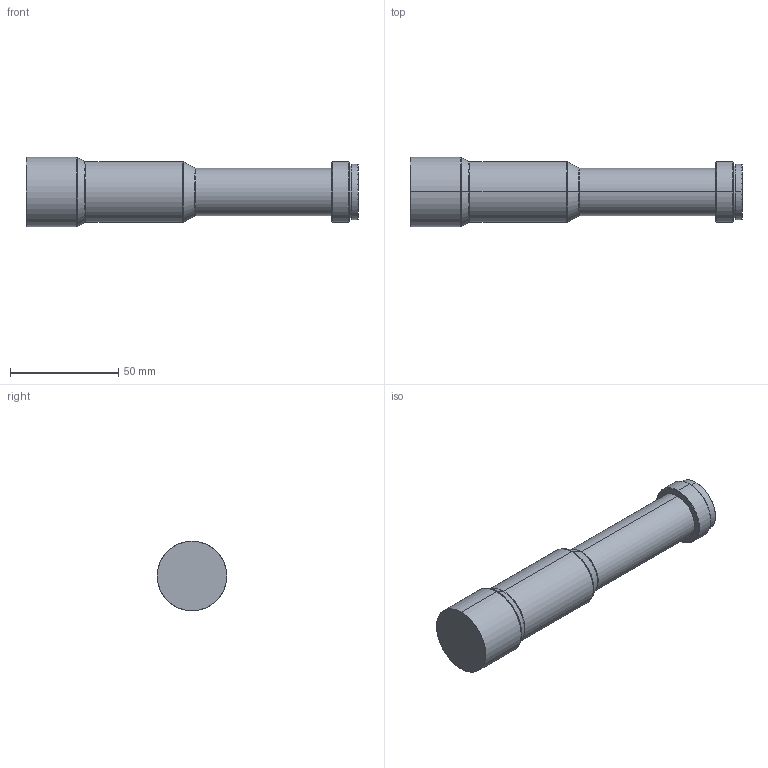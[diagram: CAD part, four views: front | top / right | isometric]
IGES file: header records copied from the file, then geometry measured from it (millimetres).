
Start section: SolidWorks IGES file using analytic representation for surfaces
Global section: file name: C:\Users\16255\Desktop\WWH50-108ATV3.IGS; native system: SolidWorks 2017; preprocessor: SolidWorks 2017; author: 16255; date: 211105.104851; units: millimetre
Bounding box: 153.1 x 32 x 32 mm (x, y, z)
Surface area: 14312.4 mm2 (no closed solid volume)
Topology: 0 solids, 0 shells, 33 faces, 400 edges, 400 vertices
Faces by surface type: revolution 20, bspline 13
